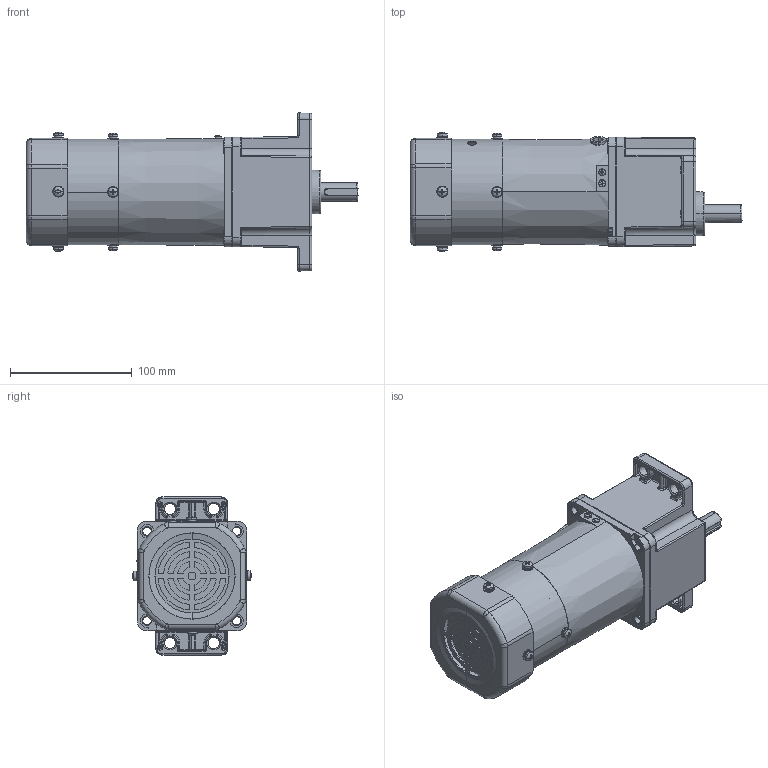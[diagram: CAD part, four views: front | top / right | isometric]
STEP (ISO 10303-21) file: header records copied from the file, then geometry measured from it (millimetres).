
FILE_DESCRIPTION (( 'STEP AP203' ), '1' );
FILE_NAME ('5RK60GU-CMF(5GU3K-200K).STEP', '2023-08-08T06:04:56', ( 'Windows User' ), ( 'P R C' ), 'SwSTEP 2.0', 'SolidWorks 2019', '' );
FILE_SCHEMA (( 'CONFIG_CONTROL_DESIGN' ));
Length unit declared in the file: millimetre
Products named in the file (10): 5RK40A-CM.stp^5RK40A-CM_5RK60A-CMF_5RK60GU-CMF(5GU3K-200K)(2)_5RK60GU-CMF(5GU3K-200K); ^5GU3K-200K_5RK60GU-CMF(5GU3K-200K)(2)_5RK60GU-CMF(5GU3K-200K); 5GU3K-200K^5RK60GU-CMF(5GU3K-200K)(2)_5RK60GU-CMF(5GU3K-200K); 90FZ^5RK60A-CMF_5RK60GU-CMF(5GU3K-200K)(2)_5RK60GU-CMF(5GU3K-200K); 5RK60GU-CMF(5GU3K-200K); 5RK60GU-CMF(5GU3K-200K)(2)^5RK60GU-CMF(5GU3K-200K); ^_5GU3K-200K_5RK60GU-CMF(5GU3K-200K)(2)_5RK60GU-CMF(5GU3K-200K); 5RK60A-CMF^5RK60GU-CMF(5GU3K-200K)(2)_5RK60GU-CMF(5GU3K-200K); M3^5RK40A-CM_5RK60A-CMF_5RK60GU-CMF(5GU3K-200K)(2)_5RK60GU-CMF(5GU3K-200K); 5RK40A-CM^5RK60A-CMF_5RK60GU-CMF(5GU3K-200K)(2)_5RK60GU-CMF(5GU3K-200K)
Assembly tree (9 placements, depth 5):
  5RK60GU-CMF(5GU3K-200K)
    5RK60GU-CMF(5GU3K-200K)(2)^5RK60GU-CMF(5GU3K-200K)
      5RK60A-CMF^5RK60GU-CMF(5GU3K-200K)(2)_5RK60GU-CMF(5GU3K-200K)
        5RK40A-CM^5RK60A-CMF_5RK60GU-CMF(5GU3K-200K)(2)_5RK60GU-CMF(5GU3K-200K)
          5RK40A-CM.stp^5RK40A-CM_5RK60A-CMF_5RK60GU-CMF(5GU3K-200K)(2)_5RK60GU-CMF(5GU3K-200K)
          M3^5RK40A-CM_5RK60A-CMF_5RK60GU-CMF(5GU3K-200K)(2)_5RK60GU-CMF(5GU3K-200K)
        90FZ^5RK60A-CMF_5RK60GU-CMF(5GU3K-200K)(2)_5RK60GU-CMF(5GU3K-200K)
      5GU3K-200K^5RK60GU-CMF(5GU3K-200K)(2)_5RK60GU-CMF(5GU3K-200K)
        ^5GU3K-200K_5RK60GU-CMF(5GU3K-200K)(2)_5RK60GU-CMF(5GU3K-200K)
          ^_5GU3K-200K_5RK60GU-CMF(5GU3K-200K)(2)_5RK60GU-CMF(5GU3K-200K)
Bounding box: 273 x 98.11 x 129.97 mm (x, y, z)
Volume: 1176465.5 mm3; surface area: 175008.4 mm2
Topology: 30 solids, 30 shells, 1341 faces, 3340 edges, 2033 vertices
Faces by surface type: cylinder 554, plane 379, cone 160, bspline 117, torus 71, sphere 60
Entity records: 49601 total; most frequent: CARTESIAN_POINT 17076, DIRECTION 6788, ORIENTED_EDGE 6542, EDGE_CURVE 3271, AXIS2_PLACEMENT_3D 2736, VERTEX_POINT 2032, CIRCLE 1495, EDGE_LOOP 1467
